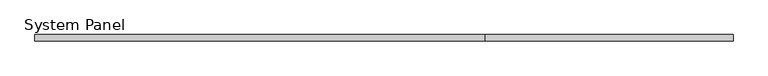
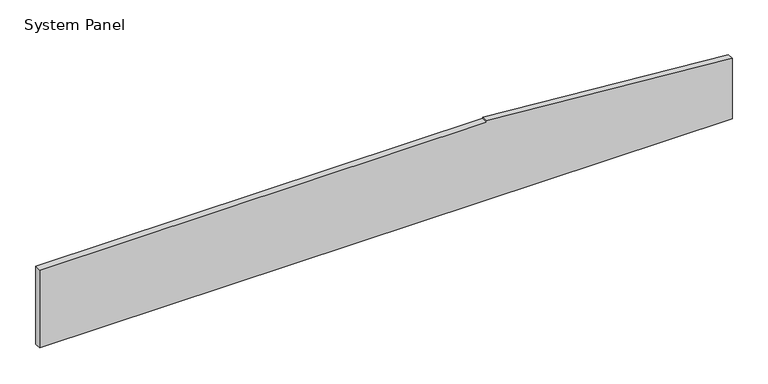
"""IFC4 building model written with IfcOpenShell, lengths in millimetres: plate geometry, System Panel : VACÍO."""

import ifcopenshell
import ifcopenshell.guid

model = None  # the IFC model being written
_history = None  # IfcOwnerHistory: only IFC2X3 demands one
_inside = {}  # id of a spatial element -> (the spatial element, [elements in it])
_under = {}  # id of a project, library or spatial element -> (it, [spatial elements below it])
_declared = {}  # id of a project -> (the project, [libraries it declares])
_typed = {}  # id of a type object -> (the type object, [elements of that type])
_made_of = {}  # id of a material, layer set ... -> (it, [elements and type objects made of it])


def new_model(schema):
    """Start an empty IFC model of exactly this schema.

    Asked for "IFC4X3", IfcOpenShell would pick the latest addendum, in which some entities
    have other attributes; the version numbers below select the first issue.
    IFC2X3 requires an IfcOwnerHistory on every rooted entity: one is made here for all.
    """
    global model, _history
    if schema == "IFC4X3":
        model = ifcopenshell.file(schema_version=(4, 3, 0, 0))
    else:
        model = ifcopenshell.file(schema=schema)
    _inside.clear()
    _under.clear()
    _declared.clear()
    _typed.clear()
    _made_of.clear()
    _history = None
    if model.schema == "IFC2X3":
        org = make("IfcOrganization", Name="unknown")
        user = make(
            "IfcPersonAndOrganization",
            ThePerson=make("IfcPerson", FamilyName="unknown"),
            TheOrganization=org,
        )
        app = make(
            "IfcApplication",
            ApplicationDeveloper=org,
            Version="unknown",
            ApplicationFullName="unknown",
            ApplicationIdentifier="unknown",
        )
        _history = make(
            "IfcOwnerHistory",
            OwningUser=user,
            OwningApplication=app,
            ChangeAction="ADDED",
            CreationDate=0,
        )
    return model


def make(cls, **values):
    """One entity of the class cls with the attributes given. An attribute that is None is left unset."""
    return model.create_entity(
        cls, **{name: value for name, value in values.items() if value is not None}
    )


def rooted(cls, **values):
    """An entity with a GlobalId (a new one), such as an element, a storey or a relation."""
    return make(cls, GlobalId=ifcopenshell.guid.new(), OwnerHistory=_history, **values)


def si_unit(unit_type, name, prefix=None):
    """IfcSIUnit, for example si_unit("LENGTHUNIT", "METRE", prefix="MILLI")."""
    return make("IfcSIUnit", UnitType=unit_type, Prefix=prefix, Name=name)


def assignment(units):
    """IfcUnitAssignment: the units of a project."""
    return None if units is None else make("IfcUnitAssignment", Units=units)


def point(xyz):
    """IfcCartesianPoint."""
    return None if xyz is None else make("IfcCartesianPoint", Coordinates=xyz)


def direction(xyz):
    """IfcDirection."""
    return None if xyz is None else make("IfcDirection", DirectionRatios=xyz)


def frame(location, z_axis=None, x_axis=None):
    """IfcAxis2Placement3D, a coordinate frame: its origin and axes. An axis left out is left unset."""
    return make(
        "IfcAxis2Placement3D",
        Location=point(location),
        Axis=direction(z_axis),
        RefDirection=direction(x_axis),
    )


def origin():
    """The frame at (0, 0, 0) with its axes left unset."""
    return frame((0.0, 0.0, 0.0))


def place(relative_to, where):
    """IfcLocalPlacement: puts the frame where relative to a parent placement (None: the world)."""
    return make(
        "IfcLocalPlacement", PlacementRelTo=relative_to, RelativePlacement=where
    )


def context(
    kind, dimensions, precision=None, world=None, true_north=None, identifier=None
):
    """IfcGeometricRepresentationContext, for example the 3D "Model" context."""
    return make(
        "IfcGeometricRepresentationContext",
        ContextIdentifier=identifier,
        ContextType=kind,
        CoordinateSpaceDimension=dimensions,
        Precision=precision,
        WorldCoordinateSystem=world,
        TrueNorth=true_north,
    )


def project(units=None, contexts=None):
    """IfcProject with its units and contexts."""
    return rooted(
        "IfcProject",
        Name="project",
        RepresentationContexts=contexts,
        UnitsInContext=assignment(units),
    )


def spatial(cls, under=None, at=None, **own):
    """A site, building, storey or space (cls), placed at a placement, below another one or the project."""
    s = rooted(cls, ObjectPlacement=at, **own)
    if under is not None:
        _under.setdefault(under.id(), (under, []))[1].append(s)
    return s


def polyline(points):
    """IfcPolyline through the points."""
    return make("IfcPolyline", Points=[point(p) for p in points])


def outline(outer, holes=None, kind="AREA"):
    """IfcArbitraryClosedProfileDef: a profile drawn as a closed curve; with holes, ...WithVoids."""
    if holes is None:
        return make("IfcArbitraryClosedProfileDef", ProfileType=kind, OuterCurve=outer)
    return make(
        "IfcArbitraryProfileDefWithVoids",
        ProfileType=kind,
        OuterCurve=outer,
        InnerCurves=holes,
    )


def extrude(swept, where, along, depth):
    """IfcExtrudedAreaSolid: the profile swept, set in the frame where, extruded along a direction by depth."""
    return make(
        "IfcExtrudedAreaSolid",
        SweptArea=swept,
        Position=where,
        ExtrudedDirection=direction(along),
        Depth=depth,
    )


def shape(context_of_items, identifier, shape_type, items):
    """IfcShapeRepresentation: the items that make up one representation, for example the "Body"."""
    return make(
        "IfcShapeRepresentation",
        ContextOfItems=context_of_items,
        RepresentationIdentifier=identifier,
        RepresentationType=shape_type,
        Items=items,
    )


def source(mapping_origin, context_of_items, identifier, shape_type, items):
    """IfcRepresentationMap: a shape defined once, which mapped items show again and again."""
    return make(
        "IfcRepresentationMap",
        MappingOrigin=mapping_origin,
        MappedRepresentation=shape(context_of_items, identifier, shape_type, items),
    )


def transform(
    local_origin,
    x_axis=None,
    y_axis=None,
    z_axis=None,
    scale=None,
    scale2=None,
    scale3=None,
    uniform=True,
):
    """IfcCartesianTransformationOperator3D, or its non-uniform kind. x_axis, y_axis, z_axis: its Axis1, 2, 3."""
    if uniform:
        return make(
            "IfcCartesianTransformationOperator3D",
            Axis1=direction(x_axis),
            Axis2=direction(y_axis),
            LocalOrigin=point(local_origin),
            Scale=scale,
            Axis3=direction(z_axis),
        )
    return make(
        "IfcCartesianTransformationOperator3DnonUniform",
        Axis1=direction(x_axis),
        Axis2=direction(y_axis),
        LocalOrigin=point(local_origin),
        Scale=scale,
        Axis3=direction(z_axis),
        Scale2=scale2,
        Scale3=scale3,
    )


def mapped(mapping_source, mapping_target):
    """IfcMappedItem: shows the shape of a source again, moved by a transform."""
    return make(
        "IfcMappedItem", MappingSource=mapping_source, MappingTarget=mapping_target
    )


def made_of(thing, what):
    """Note that an element or type object is made of a material, layer set ...; save() writes the relation."""
    if what is not None:
        _made_of.setdefault(what.id(), (what, []))[1].append(thing)
    return thing


def element(
    cls,
    number,
    at=None,
    inside=None,
    cuts=None,
    type_object=None,
    material=None,
    context=None,
    identifier="Body",
    shape_type=None,
    held_by="IfcProductDefinitionShape",
    body=None,
    shapes=None,
    **own,
):
    """One element of the class cls, such as IfcWall. Its Tag is "e" and its number.

    at: its placement. inside: the storey or other place that contains it. cuts: it is an
    opening in that element (IfcRelVoidsElement). A single representation is given by context,
    identifier, shape_type and body (its items); several are given by shapes. held_by: the class
    of the entity that holds the representations. save() writes the other relations.
    """
    e = rooted(cls, Tag="e%d" % number, ObjectPlacement=at, **own)
    if body is not None:
        shapes = [shape(context, identifier, shape_type, body)]
    if shapes is not None:
        e.Representation = make(held_by, Representations=shapes)
    if inside is not None:
        _inside.setdefault(inside.id(), (inside, []))[1].append(e)
    if cuts is not None:
        rooted(
            "IfcRelVoidsElement", RelatingBuildingElement=cuts, RelatedOpeningElement=e
        )
    if type_object is not None:
        _typed.setdefault(type_object.id(), (type_object, []))[1].append(e)
    return made_of(e, material)


def aggregate(whole, parts):
    """IfcRelAggregates: a whole, such as a stair, and the parts it consists of."""
    return rooted("IfcRelAggregates", RelatingObject=whole, RelatedObjects=parts)


def save(model, path):
    """Write the relations noted so far, then the file.

    IfcRelAggregates (storeys below a building ...), IfcRelContainedInSpatialStructure (elements
    in a storey), IfcRelDefinesByType, IfcRelAssociatesMaterial and IfcRelDeclares: one each for
    every whole, place, type object, material and project.
    """
    for whole, parts in _under.values():
        aggregate(whole, parts)
    for where, things in _inside.values():
        rooted(
            "IfcRelContainedInSpatialStructure",
            RelatedElements=things,
            RelatingStructure=where,
        )
    for kind, things in _typed.values():
        rooted("IfcRelDefinesByType", RelatedObjects=things, RelatingType=kind)
    for what, things in _made_of.values():
        rooted("IfcRelAssociatesMaterial", RelatedObjects=things, RelatingMaterial=what)
    for by, libraries in _declared.values():
        rooted("IfcRelDeclares", RelatingContext=by, RelatedDefinitions=libraries)
    model.write(path)


def system_panel_1cdc0100(model_context):
    return source(origin(), model_context, "Body", "SweptSolid", [
        extrude(outline(polyline([(0.0, -555.7609662), (0.0, 555.7609662), (102.2108178, 555.7609662), (134.0532775, 161.0808344), (132.0338449, 161.5633415), (132.0338449, -555.7609662), (0.0, -555.7609662)])), frame((0.0, -5.0, 0.0), z_axis=(0.0, 1.0, 0.0), x_axis=(0.0, 0.0, 1.0)), (0.0, 0.0, 1.0), 10.0),
    ])


if __name__ == "__main__":
    model = new_model("IFC4")
    model_context = context("Model", 3, world=origin())
    ifc_project = project(units=[si_unit("LENGTHUNIT", "METRE", prefix="MILLI")], contexts=[model_context])
    site = spatial("IfcSite", under=ifc_project)
    building = spatial("IfcBuilding", under=site)
    placement = place(None, origin())
    system_panel_shape = system_panel_1cdc0100(model_context)
    element("IfcPlate", 1, ObjectType="System Panel : VACÍO", at=placement, inside=building, context=model_context, shape_type="MappedRepresentation", body=[
        mapped(system_panel_shape, transform((0.0, 0.0, 0.0), x_axis=(1.0, 0.0, 0.0), y_axis=(0.0, 1.0, 0.0), z_axis=(0.0, 0.0, 1.0))),
    ])
    save(model, "model.ifc")
